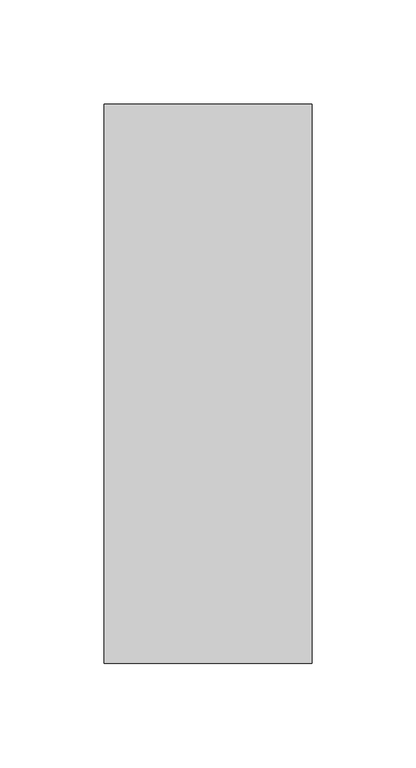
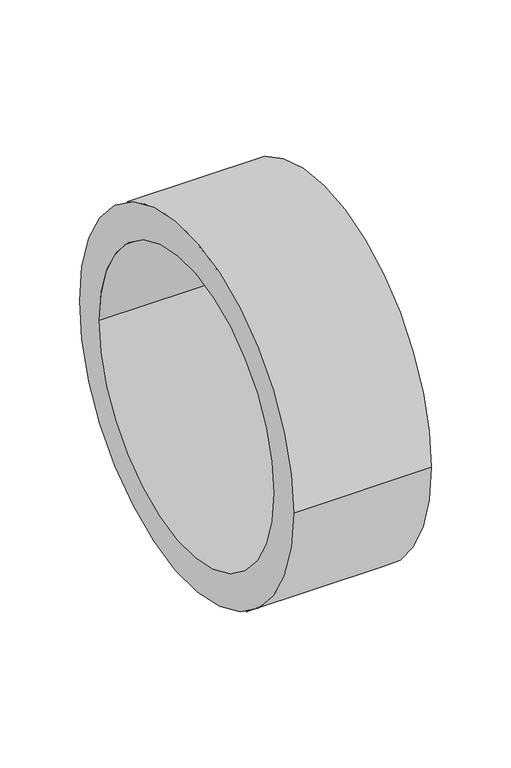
"""IFC4 building model written with IfcOpenShell, lengths in millimetres: pipe fitting geometry, СТ_Подвесы_ДляТруб_IsotermUltima_D10-219_СимфонияТепла : Isoterm UL 25-219."""

from ifc_helpers import new_model, si_unit, point, frame, origin, origin_2d, place, context, project, spatial, circle_curve, trimmed, segment, composite_curve, outline, extrude, source, transform, mapped, element, save


def pipe_fitting_67ac7dcb(model_context):
    return source(origin(), model_context, "Body", "SweptSolid", [
        extrude(outline(composite_curve([segment(trimmed(circle_curve(origin_2d(), 134.5), [point((-134.5, 0.0))], [point((134.5, 0.0))], False, "CARTESIAN"), True, "CONTINUOUS"), segment(trimmed(circle_curve(origin_2d(), 134.5), [point((134.5, 0.0))], [point((-134.5, 0.0))], False, "CARTESIAN"), True, "CONTINUOUS")], self_intersect=False), holes=[composite_curve([segment(trimmed(circle_curve(origin_2d(), 109.5), [point((-109.5, 0.0))], [point((109.5, 0.0))], True, "CARTESIAN"), True, "CONTINUOUS"), segment(trimmed(circle_curve(origin_2d(), 109.5), [point((109.5, 0.0))], [point((-109.5, 0.0))], True, "CARTESIAN"), True, "CONTINUOUS")], self_intersect=False)]), frame((-50.0, 0.0, 0.0), z_axis=(1.0, 0.0, 0.0), x_axis=(0.0, 1.0, 0.0)), (0.0, 0.0, 1.0), 100.0),
    ])


if __name__ == "__main__":
    model = new_model("IFC4")
    model_context = context("Model", 3, world=origin())
    ifc_project = project(units=[si_unit("LENGTHUNIT", "METRE", prefix="MILLI")], contexts=[model_context])
    site = spatial("IfcSite", under=ifc_project)
    building = spatial("IfcBuilding", under=site)
    placement = place(None, origin())
    pipe_fitting_shape = pipe_fitting_67ac7dcb(model_context)
    element("IfcPipeFitting", 1, ObjectType="СТ_Подвесы_ДляТруб_IsotermUltima_D10-219_СимфонияТепла : Isoterm UL 25-219", at=placement, inside=building, context=model_context, shape_type="MappedRepresentation", body=[
        mapped(pipe_fitting_shape, transform((0.0, 0.0, 0.0), x_axis=(1.0, 0.0, 0.0), y_axis=(0.0, 1.0, 0.0), z_axis=(0.0, 0.0, 1.0))),
    ])
    save(model, "model.ifc")
